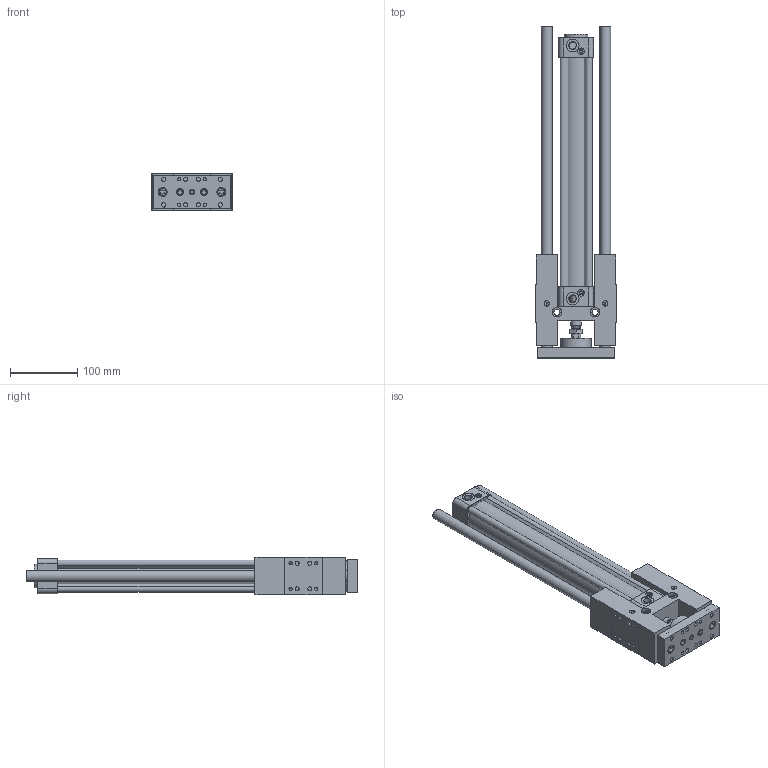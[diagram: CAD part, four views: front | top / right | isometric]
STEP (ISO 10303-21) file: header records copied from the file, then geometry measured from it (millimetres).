
FILE_DESCRIPTION((''),'2;1');
FILE_NAME('I:\3D電子目錄\氣缸\GHB(U)\GHB(U)\GHB(U)40\GHB(U)40x300.stp','2007-10-19T14:53:23',('Administrator'),(''),'Autodesk Inventor 11','Autodesk Inventor 11','');
FILE_SCHEMA(('AUTOMOTIVE_DESIGN { 1 0 10303 214 1 1 1 1 }'));
Length unit declared in the file: millimetre
Products named in the file (1): GHB(U)40
Bounding box: 119 x 493 x 56.2 mm (x, y, z)
Volume: 1202023.3 mm3; surface area: 312892.3 mm2
Topology: 17 solids, 17 shells, 779 faces, 1702 edges, 1054 vertices
Faces by surface type: plane 296, bspline 215, cylinder 170, cone 89, torus 9
Full cylindrical faces by diameter (mm): 2.6 x2, 4.9 x2, 4.917 x4, 5 x4, 5.5 x10, 6 x12, 6.5 x8, 6.8 x1, 7.8 x6, 8 x5, 9 x6, 9.5 x1, 9.9 x1, 10 x5, 10.2 x8, 12 x3, 13 x2, 16 x4, 18 x1, 19 x2, 21 x2, 35 x1, 40 x1, 45 x1
Entity records: 22134 total; most frequent: CARTESIAN_POINT 6597, DIRECTION 3108, ORIENTED_EDGE 2968, EDGE_CURVE 1484, AXIS2_PLACEMENT_3D 1218, EDGE_LOOP 1096, VERTEX_POINT 1022, FACE_OUTER_BOUND 779
